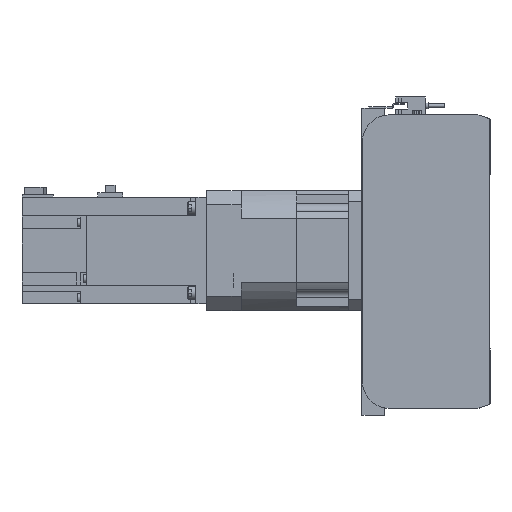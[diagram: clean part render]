
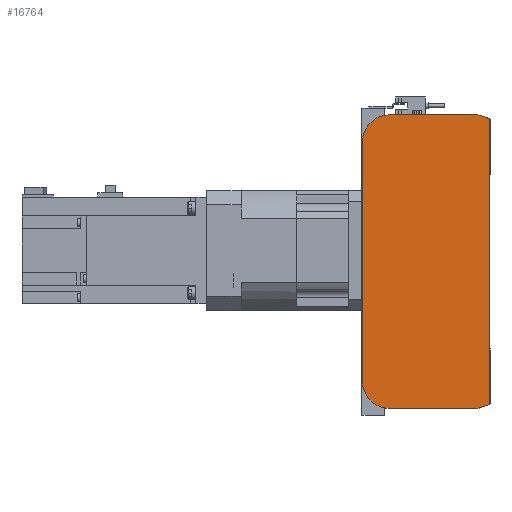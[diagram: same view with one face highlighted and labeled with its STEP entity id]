
A CAD part, left-side view. The second image highlights one B-rep face of the part: STEP entity #16764.
In plain terms, the highlighted planar face has unit normal (-1, 0, 0).
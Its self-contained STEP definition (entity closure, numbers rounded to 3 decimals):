
#942=CIRCLE('',#18293,20.);
#943=CIRCLE('',#18296,20.);
#4302=ORIENTED_EDGE('',*,*,#7304,.F.);
#4303=ORIENTED_EDGE('',*,*,#7346,.F.);
#4304=ORIENTED_EDGE('',*,*,#7344,.F.);
#4305=ORIENTED_EDGE('',*,*,#7342,.F.);
#4306=ORIENTED_EDGE('',*,*,#7331,.F.);
#4307=ORIENTED_EDGE('',*,*,#7322,.F.);
#4308=ORIENTED_EDGE('',*,*,#7318,.F.);
#4309=ORIENTED_EDGE('',*,*,#7315,.F.);
#7304=EDGE_CURVE('',#9149,#9150,#10651,.T.);
#7315=EDGE_CURVE('',#9150,#9157,#10662,.T.);
#7318=EDGE_CURVE('',#9157,#9159,#10665,.T.);
#7322=EDGE_CURVE('',#9159,#9160,#10669,.T.);
#7331=EDGE_CURVE('',#9160,#9166,#10678,.T.);
#7342=EDGE_CURVE('',#9166,#9173,#942,.T.);
#7344=EDGE_CURVE('',#9173,#9174,#10690,.T.);
#7346=EDGE_CURVE('',#9174,#9149,#943,.T.);
#9149=VERTEX_POINT('',#27471);
#9150=VERTEX_POINT('',#27473);
#9157=VERTEX_POINT('',#27492);
#9159=VERTEX_POINT('',#27498);
#9160=VERTEX_POINT('',#27504);
#9166=VERTEX_POINT('',#27520);
#9173=VERTEX_POINT('',#27539);
#9174=VERTEX_POINT('',#27543);
#10651=LINE('',#27472,#12208);
#10662=LINE('',#27491,#12219);
#10665=LINE('',#27497,#12222);
#10669=LINE('',#27503,#12226);
#10678=LINE('',#27519,#12235);
#10690=LINE('',#27542,#12247);
#12208=VECTOR('',#22244,1000.);
#12219=VECTOR('',#22257,1000.);
#12222=VECTOR('',#22262,1000.);
#12226=VECTOR('',#22268,1000.);
#12235=VECTOR('',#22279,1000.);
#12247=VECTOR('',#22297,1000.);
#13632=EDGE_LOOP('',(#4302,#4303,#4304,#4305,#4306,#4307,#4308,#4309));
#15054=FACE_BOUND('',#13632,.T.);
#15915=PLANE('',#18297);
#16764=ADVANCED_FACE('',(#15054),#15915,.F.);
#18293=AXIS2_PLACEMENT_3D('',#27538,#22292,#22293);
#18296=AXIS2_PLACEMENT_3D('',#27546,#22301,#22302);
#18297=AXIS2_PLACEMENT_3D('',#27547,#22303,#22304);
#22244=DIRECTION('',(0.,-1.,0.));
#22257=DIRECTION('',(0.,-0.945,-0.328));
#22262=DIRECTION('',(0.,0.,-1.));
#22268=DIRECTION('',(0.,0.945,-0.328));
#22279=DIRECTION('',(0.,1.,0.));
#22292=DIRECTION('',(1.,0.,0.));
#22293=DIRECTION('',(0.,0.,-1.));
#22297=DIRECTION('',(0.,0.,1.));
#22301=DIRECTION('',(1.,0.,0.));
#22302=DIRECTION('',(0.,0.,-1.));
#22303=DIRECTION('',(1.,0.,0.));
#22304=DIRECTION('',(0.,0.,-1.));
#27471=CARTESIAN_POINT('',(0.,75.5,110.));
#27472=CARTESIAN_POINT('',(0.,75.5,110.));
#27473=CARTESIAN_POINT('',(0.,9.,110.));
#27491=CARTESIAN_POINT('',(0.,9.,110.));
#27492=CARTESIAN_POINT('',(0.,0.5,107.05));
#27497=CARTESIAN_POINT('',(0.,0.5,107.05));
#27498=CARTESIAN_POINT('',(0.,0.5,-107.05));
#27503=CARTESIAN_POINT('',(0.,0.5,-107.05));
#27504=CARTESIAN_POINT('',(0.,9.,-110.));
#27519=CARTESIAN_POINT('',(0.,9.,-110.));
#27520=CARTESIAN_POINT('',(0.,75.5,-110.));
#27538=CARTESIAN_POINT('',(0.,75.5,-90.));
#27539=CARTESIAN_POINT('',(0.,95.5,-90.));
#27542=CARTESIAN_POINT('',(0.,95.5,-90.));
#27543=CARTESIAN_POINT('',(0.,95.5,90.));
#27546=CARTESIAN_POINT('',(0.,75.5,90.));
#27547=CARTESIAN_POINT('',(0.,75.5,-90.));
